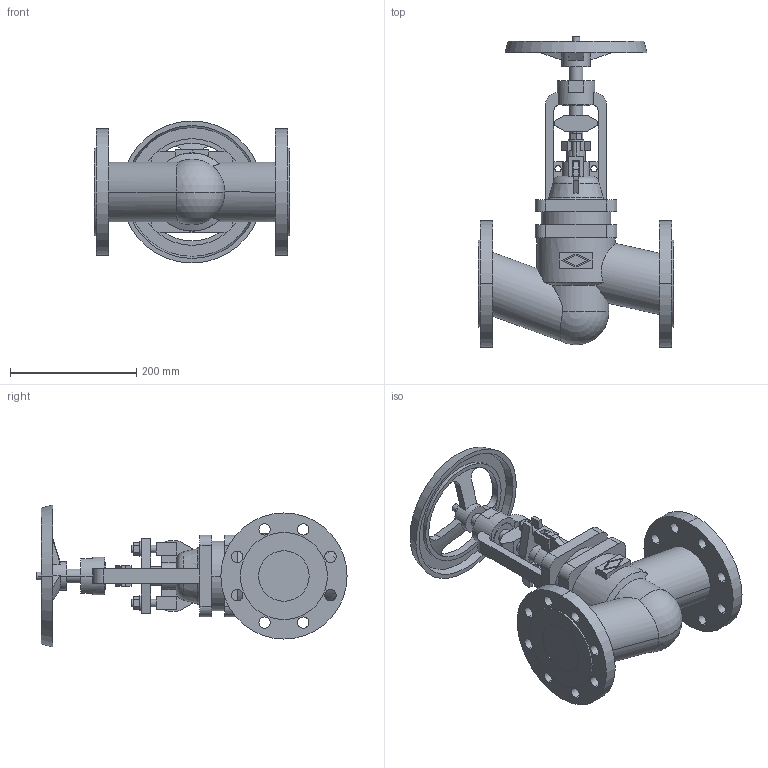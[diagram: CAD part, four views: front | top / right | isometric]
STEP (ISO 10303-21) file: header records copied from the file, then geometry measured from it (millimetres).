
FILE_DESCRIPTION(('OneSpaceDesigner STEP Export'),'2;1');
FILE_NAME('c000003764.stp','2009-06-16T11:01:17',(''),(''),'OneSpace Designer STEP processor for AP214 (Solid Model)','OneSpace Modeling 15.50B 03-Nov-2007 (C) CoCreate Software GmbH','');
FILE_SCHEMA(('AUTOMOTIVE_DESIGN { 1 0 10303 214 1 1 1 1 }'));
Length unit declared in the file: millimetre
Products named in the file (1): 1
Bounding box: 310 x 491.4 x 225 mm (x, y, z)
Volume: 5786859.7 mm3; surface area: 479607.2 mm2
Topology: 1 solids, 1 shells, 306 faces, 809 edges, 530 vertices
Faces by surface type: plane 155, cylinder 121, cone 18, torus 10, sphere 2
Entity records: 12035 total; most frequent: CARTESIAN_POINT 2353, ORIENTED_EDGE 1614, DIRECTION 1336, EDGE_CURVE 807, VERTEX_POINT 530, AXIS2_PLACEMENT_3D 448, VECTOR 440, LINE 440
